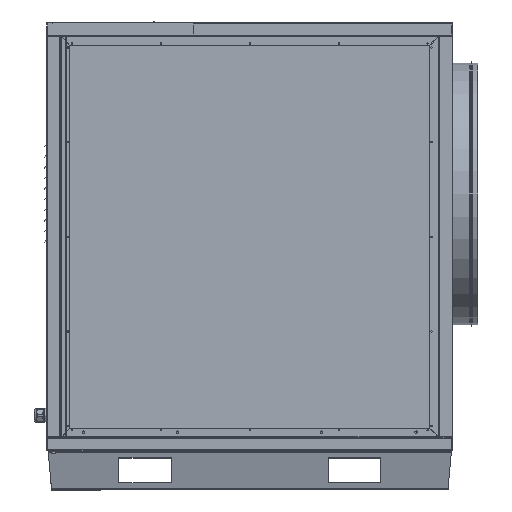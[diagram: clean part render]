
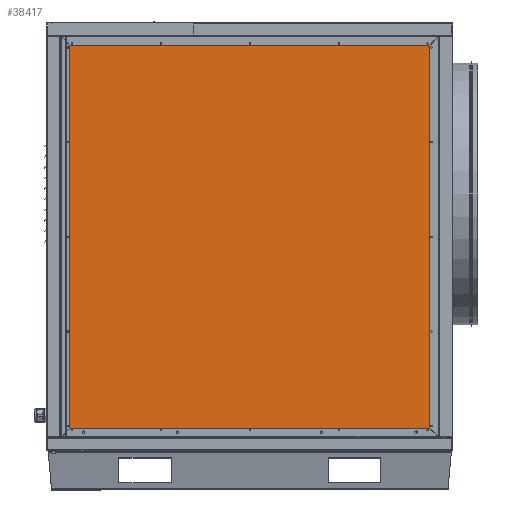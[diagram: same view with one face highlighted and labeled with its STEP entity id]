
A CAD part, front view. The second image highlights one B-rep face of the part: STEP entity #38417.
In plain terms, the highlighted planar face has unit normal (0, -1, 0).
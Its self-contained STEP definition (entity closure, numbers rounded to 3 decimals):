
#1088=LINE('',#58317,#5047);
#1104=LINE('',#58358,#5063);
#1116=LINE('',#58383,#5075);
#1384=LINE('',#62537,#5343);
#1396=LINE('',#62570,#5355);
#1409=LINE('',#62597,#5368);
#1424=LINE('',#62646,#5383);
#1425=LINE('',#62648,#5384);
#1426=LINE('',#62650,#5385);
#1427=LINE('',#62652,#5386);
#1428=LINE('',#62654,#5387);
#1429=LINE('',#62656,#5388);
#1430=LINE('',#62658,#5389);
#1431=LINE('',#62660,#5390);
#1432=LINE('',#62662,#5391);
#1433=LINE('',#62663,#5392);
#5047=VECTOR('',#45560,10.);
#5063=VECTOR('',#45596,10.);
#5075=VECTOR('',#45626,10.);
#5343=VECTOR('',#46290,10.);
#5355=VECTOR('',#46320,10.);
#5368=VECTOR('',#46353,10.);
#5383=VECTOR('',#46404,10.);
#5384=VECTOR('',#46405,1000.);
#5385=VECTOR('',#46406,10.);
#5386=VECTOR('',#46407,10.);
#5387=VECTOR('',#46408,10.);
#5388=VECTOR('',#46409,10.);
#5389=VECTOR('',#46410,10.);
#5390=VECTOR('',#46411,10.);
#5391=VECTOR('',#46412,10.);
#5392=VECTOR('',#46413,10.);
#10383=FACE_OUTER_BOUND('',#12753,.T.);
#12753=EDGE_LOOP('',(#27801,#27802,#27803,#27804,#27805,#27806,#27807,#27808,
#27809,#27810,#27811,#27812,#27813,#27814,#27815,#27816));
#16837=VERTEX_POINT('',#58315);
#16838=VERTEX_POINT('',#58316);
#16847=VERTEX_POINT('',#58338);
#16852=VERTEX_POINT('',#58355);
#17114=VERTEX_POINT('',#62471);
#17116=VERTEX_POINT('',#62474);
#17137=VERTEX_POINT('',#62536);
#17148=VERTEX_POINT('',#62567);
#17170=VERTEX_POINT('',#62647);
#17171=VERTEX_POINT('',#62649);
#17172=VERTEX_POINT('',#62651);
#17173=VERTEX_POINT('',#62653);
#17174=VERTEX_POINT('',#62655);
#17175=VERTEX_POINT('',#62657);
#17176=VERTEX_POINT('',#62659);
#17177=VERTEX_POINT('',#62661);
#20624=EDGE_CURVE('',#16837,#16838,#1088,.T.);
#20646=EDGE_CURVE('',#16838,#16852,#1104,.T.);
#20660=EDGE_CURVE('',#16852,#16847,#1116,.T.);
#21089=EDGE_CURVE('',#17114,#17137,#1384,.T.);
#21107=EDGE_CURVE('',#17137,#17148,#1396,.T.);
#21122=EDGE_CURVE('',#17148,#17116,#1409,.T.);
#21141=EDGE_CURVE('',#16847,#17114,#1424,.T.);
#21142=EDGE_CURVE('',#17170,#17116,#1425,.F.);
#21143=EDGE_CURVE('',#17170,#17171,#1426,.T.);
#21144=EDGE_CURVE('',#17171,#17172,#1427,.T.);
#21145=EDGE_CURVE('',#17172,#17173,#1428,.T.);
#21146=EDGE_CURVE('',#17173,#17174,#1429,.T.);
#21147=EDGE_CURVE('',#17174,#17175,#1430,.T.);
#21148=EDGE_CURVE('',#17175,#17176,#1431,.T.);
#21149=EDGE_CURVE('',#17176,#17177,#1432,.T.);
#21150=EDGE_CURVE('',#17177,#16837,#1433,.T.);
#27801=ORIENTED_EDGE('',*,*,#20660,.T.);
#27802=ORIENTED_EDGE('',*,*,#21141,.T.);
#27803=ORIENTED_EDGE('',*,*,#21089,.T.);
#27804=ORIENTED_EDGE('',*,*,#21107,.T.);
#27805=ORIENTED_EDGE('',*,*,#21122,.T.);
#27806=ORIENTED_EDGE('',*,*,#21142,.F.);
#27807=ORIENTED_EDGE('',*,*,#21143,.T.);
#27808=ORIENTED_EDGE('',*,*,#21144,.T.);
#27809=ORIENTED_EDGE('',*,*,#21145,.T.);
#27810=ORIENTED_EDGE('',*,*,#21146,.T.);
#27811=ORIENTED_EDGE('',*,*,#21147,.T.);
#27812=ORIENTED_EDGE('',*,*,#21148,.T.);
#27813=ORIENTED_EDGE('',*,*,#21149,.T.);
#27814=ORIENTED_EDGE('',*,*,#21150,.T.);
#27815=ORIENTED_EDGE('',*,*,#20624,.T.);
#27816=ORIENTED_EDGE('',*,*,#20646,.T.);
#36753=PLANE('',#40995);
#38417=ADVANCED_FACE('',(#10383),#36753,.T.);
#40995=AXIS2_PLACEMENT_3D('',#62645,#46402,#46403);
#45560=DIRECTION('',(0.707,0.,-0.707));
#45596=DIRECTION('',(0.,0.,-1.));
#45626=DIRECTION('',(-0.707,0.,-0.707));
#46290=DIRECTION('',(0.707,0.,0.707));
#46320=DIRECTION('',(1.,0.,0.));
#46353=DIRECTION('',(0.707,0.,-0.707));
#46402=DIRECTION('center_axis',(0.,-1.,0.));
#46403=DIRECTION('ref_axis',(1.,0.,0.));
#46404=DIRECTION('',(0.,0.,-1.));
#46405=DIRECTION('',(1.,0.,0.));
#46406=DIRECTION('',(-0.707,0.,0.707));
#46407=DIRECTION('',(0.,0.,1.));
#46408=DIRECTION('',(0.707,0.,0.707));
#46409=DIRECTION('',(-1.,0.,0.));
#46410=DIRECTION('',(-0.707,0.,-0.707));
#46411=DIRECTION('',(-1.,0.,0.));
#46412=DIRECTION('',(-0.707,0.,0.707));
#46413=DIRECTION('',(0.,0.,-1.));
#58315=CARTESIAN_POINT('',(23.55,-50.9,1512.));
#58316=CARTESIAN_POINT('',(36.05,-50.9,1499.5));
#58317=CARTESIAN_POINT('',(758.25,-50.9,777.3));
#58338=CARTESIAN_POINT('',(23.55,-50.9,23.));
#58355=CARTESIAN_POINT('',(36.05,-50.9,35.5));
#58358=CARTESIAN_POINT('',(36.05,-50.9,69.35));
#58383=CARTESIAN_POINT('',(443.6,-50.9,443.05));
#62471=CARTESIAN_POINT('',(23.55,-50.9,22.));
#62474=CARTESIAN_POINT('',(1444.55,-50.9,3.));
#62536=CARTESIAN_POINT('',(36.55,-50.9,35.));
#62537=CARTESIAN_POINT('',(433.1,-50.9,431.55));
#62567=CARTESIAN_POINT('',(1412.55,-50.9,35.));
#62570=CARTESIAN_POINT('',(1148.3,-50.9,35.));
#62597=CARTESIAN_POINT('',(1078.25,-50.9,369.3));
#62645=CARTESIAN_POINT('Origin',(849.05,-50.9,138.2));
#62646=CARTESIAN_POINT('',(23.55,-50.9,835.1));
#62647=CARTESIAN_POINT('',(1445.55,-50.9,3.));
#62648=CARTESIAN_POINT('',(1261.8,-50.9,3.));
#62649=CARTESIAN_POINT('',(1413.05,-50.9,35.5));
#62650=CARTESIAN_POINT('',(1067.75,-50.9,380.8));
#62651=CARTESIAN_POINT('',(1413.05,-50.9,1499.5));
#62652=CARTESIAN_POINT('',(1413.05,-50.9,836.35));
#62653=CARTESIAN_POINT('',(1445.55,-50.9,1532.));
#62654=CARTESIAN_POINT('',(753.1,-50.9,839.55));
#62655=CARTESIAN_POINT('',(1444.55,-50.9,1532.));
#62656=CARTESIAN_POINT('',(694.8,-50.9,1532.));
#62657=CARTESIAN_POINT('',(1412.55,-50.9,1500.));
#62658=CARTESIAN_POINT('',(763.6,-50.9,851.05));
#62659=CARTESIAN_POINT('',(36.55,-50.9,1500.));
#62660=CARTESIAN_POINT('',(425.3,-50.9,1500.));
#62661=CARTESIAN_POINT('',(23.55,-50.9,1513.));
#62662=CARTESIAN_POINT('',(747.75,-50.9,788.8));
#62663=CARTESIAN_POINT('',(23.55,-50.9,835.1));
